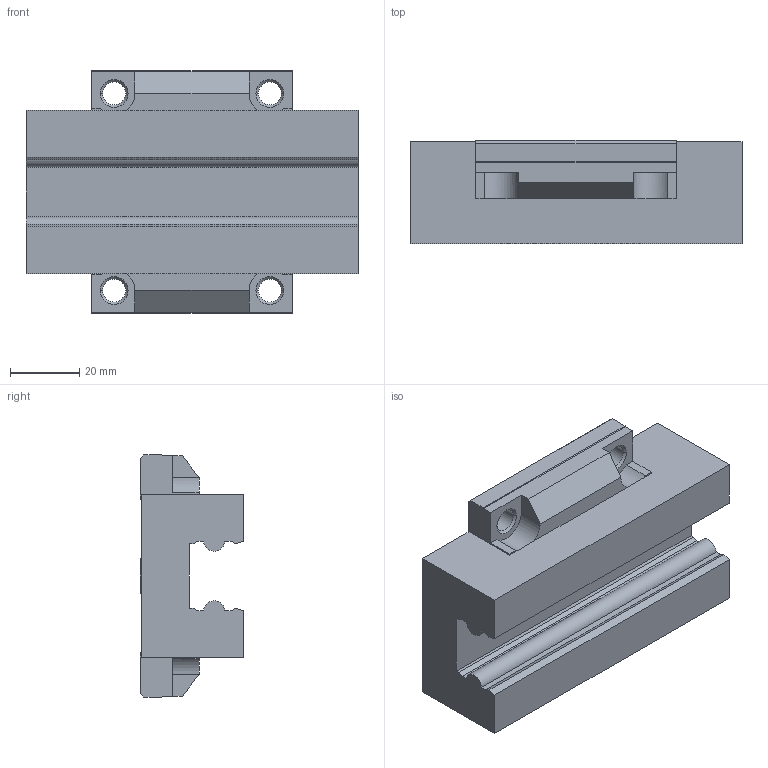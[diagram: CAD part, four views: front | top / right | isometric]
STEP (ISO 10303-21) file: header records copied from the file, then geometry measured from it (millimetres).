
FILE_DESCRIPTION( ( '' ), '1' );
FILE_NAME( 'c:/dr_tretter_step_out/schienenfuehrungen/alu_sf/fns_2500.stp', '2008-09-03T09:11:47', ( '' ), ( '' ), ' ', ' ', ' ' );
FILE_SCHEMA( ( 'CONFIG_CONTROL_DESIGN' ) );
Length unit declared in the file: millimetre
Products named in the file (1): 1
Bounding box: 96 x 29.9 x 70 mm (x, y, z)
Volume: 121554.5 mm3; surface area: 24339.3 mm2
Topology: 1 solids, 1 shells, 106 faces, 280 edges, 176 vertices
Faces by surface type: plane 76, cone 16, cylinder 14
Entity records: 3284 total; most frequent: CARTESIAN_POINT 563, ORIENTED_EDGE 560, DIRECTION 550, EDGE_CURVE 280, LINE 224, VECTOR 224, VERTEX_POINT 176, AXIS2_PLACEMENT_3D 163
